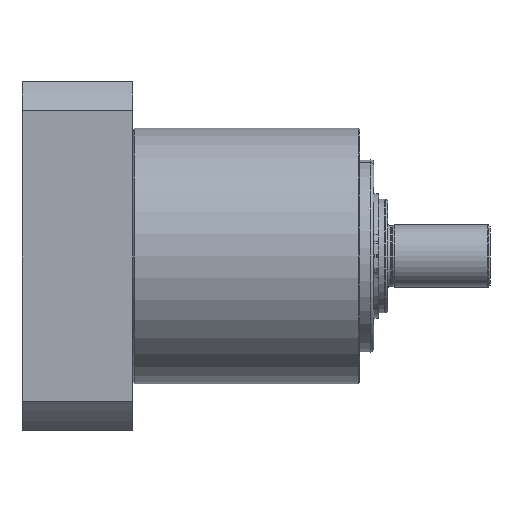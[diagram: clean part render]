
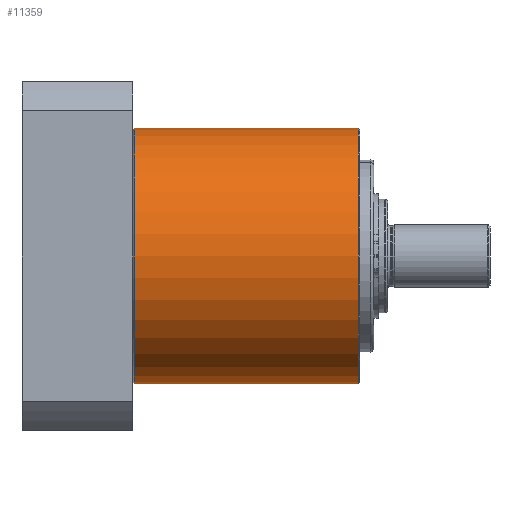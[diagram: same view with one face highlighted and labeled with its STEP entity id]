
A CAD part, front view. The second image highlights one B-rep face of the part: STEP entity #11359.
In plain terms, the highlighted cylindrical face has radius 45 mm (diameter 90 mm), a partial arc.
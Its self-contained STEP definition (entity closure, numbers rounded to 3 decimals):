
#398 = LINE ( 'NONE', #6279, #2117 ) ;
#504 = CARTESIAN_POINT ( 'NONE',  ( 0.5, 0., 0. ) ) ;
#1249 = VECTOR ( 'NONE', #2850, 1000. ) ;
#1364 = DIRECTION ( 'NONE',  ( 0., 0., -1. ) ) ;
#2117 = VECTOR ( 'NONE', #5259, 1000. ) ;
#2350 = CARTESIAN_POINT ( 'NONE',  ( 0.5, 0., -45. ) ) ;
#2498 = ORIENTED_EDGE ( 'NONE', *, *, #8644, .T. ) ;
#2813 = CARTESIAN_POINT ( 'NONE',  ( 0.5, 0., 45. ) ) ;
#2850 = DIRECTION ( 'NONE',  ( 1., 0., 0. ) ) ;
#2876 = CIRCLE ( 'NONE', #9741, 45. ) ;
#3110 = CARTESIAN_POINT ( 'NONE',  ( 79.5, 0., 0. ) ) ;
#4065 = CARTESIAN_POINT ( 'NONE',  ( 79.5, 0., 45. ) ) ;
#4367 = DIRECTION ( 'NONE',  ( 1., 0., 0. ) ) ;
#4377 = AXIS2_PLACEMENT_3D ( 'NONE', #504, #4367, #7254 ) ;
#4842 = CARTESIAN_POINT ( 'NONE',  ( 79.5, 0., -45. ) ) ;
#5016 = VERTEX_POINT ( 'NONE', #4065 ) ;
#5259 = DIRECTION ( 'NONE',  ( 1., 0., 0. ) ) ;
#5322 = DIRECTION ( 'NONE',  ( -1., 0., 0. ) ) ;
#5966 = EDGE_CURVE ( 'NONE', #9104, #5016, #2876, .T. ) ;
#6279 = CARTESIAN_POINT ( 'NONE',  ( 52.368, 0., 45. ) ) ;
#6954 = EDGE_CURVE ( 'NONE', #8797, #5016, #398, .T. ) ;
#7181 = FACE_OUTER_BOUND ( 'NONE', #10397, .T. ) ;
#7254 = DIRECTION ( 'NONE',  ( 0., 0., -1. ) ) ;
#7391 = CIRCLE ( 'NONE', #4377, 45. ) ;
#7532 = AXIS2_PLACEMENT_3D ( 'NONE', #11795, #10772, #1364 ) ;
#7739 = VERTEX_POINT ( 'NONE', #2350 ) ;
#7798 = ORIENTED_EDGE ( 'NONE', *, *, #6954, .F. ) ;
#8644 = EDGE_CURVE ( 'NONE', #8797, #7739, #7391, .T. ) ;
#8797 = VERTEX_POINT ( 'NONE', #2813 ) ;
#8984 = CYLINDRICAL_SURFACE ( 'NONE', #7532, 45. ) ;
#9104 = VERTEX_POINT ( 'NONE', #4842 ) ;
#9741 = AXIS2_PLACEMENT_3D ( 'NONE', #3110, #5322, #10884 ) ;
#10397 = EDGE_LOOP ( 'NONE', ( #7798, #2498, #11900, #11014 ) ) ;
#10687 = EDGE_CURVE ( 'NONE', #7739, #9104, #11407, .T. ) ;
#10772 = DIRECTION ( 'NONE',  ( 1., 0., 0. ) ) ;
#10884 = DIRECTION ( 'NONE',  ( 0., 0., 1. ) ) ;
#11014 = ORIENTED_EDGE ( 'NONE', *, *, #5966, .T. ) ;
#11359 = ADVANCED_FACE ( 'NONE', ( #7181 ), #8984, .T. ) ;
#11407 = LINE ( 'NONE', #12274, #1249 ) ;
#11795 = CARTESIAN_POINT ( 'NONE',  ( 52.368, 0., 0. ) ) ;
#11900 = ORIENTED_EDGE ( 'NONE', *, *, #10687, .T. ) ;
#12274 = CARTESIAN_POINT ( 'NONE',  ( 52.368, 0., -45. ) ) ;
